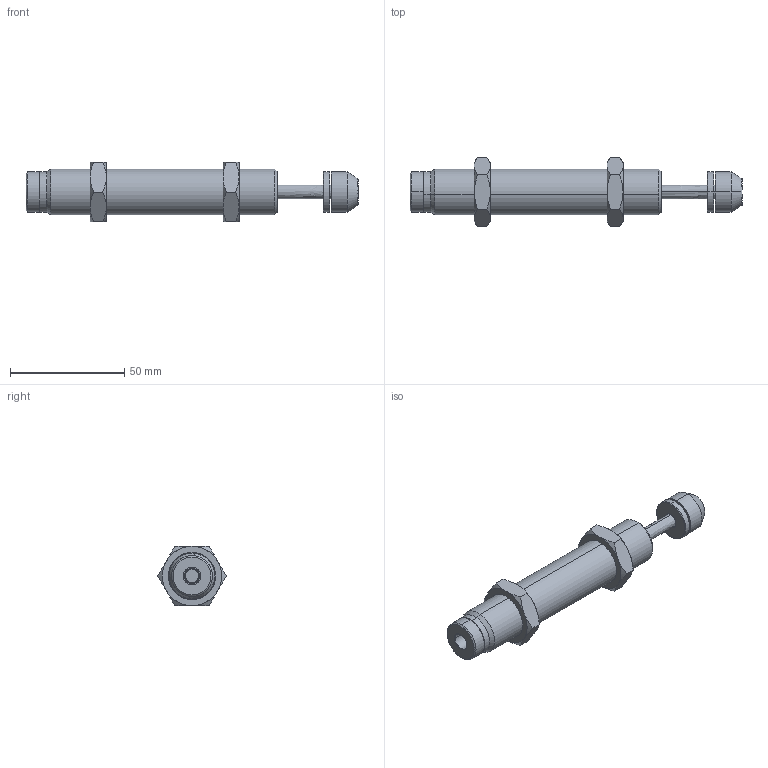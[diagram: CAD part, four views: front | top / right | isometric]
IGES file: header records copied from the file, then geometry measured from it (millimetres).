
Start section: SolidWorks IGES file using analytic representation for surfaces
Global section: file name: D:\IGS跡宒\AC2020.IGS,1; native system: 5HSolidWorks 2013; preprocessor: SolidWorks 2013; author: Administrator; date: 160406.152020; units: inch
Bounding box: 145.3 x 30.02 x 26 mm (x, y, z)
Surface area: 13090.9 mm2 (no closed solid volume)
Topology: 0 solids, 0 shells, 102 faces, 1520 edges, 1520 vertices
Faces by surface type: revolution 78, bspline 24
